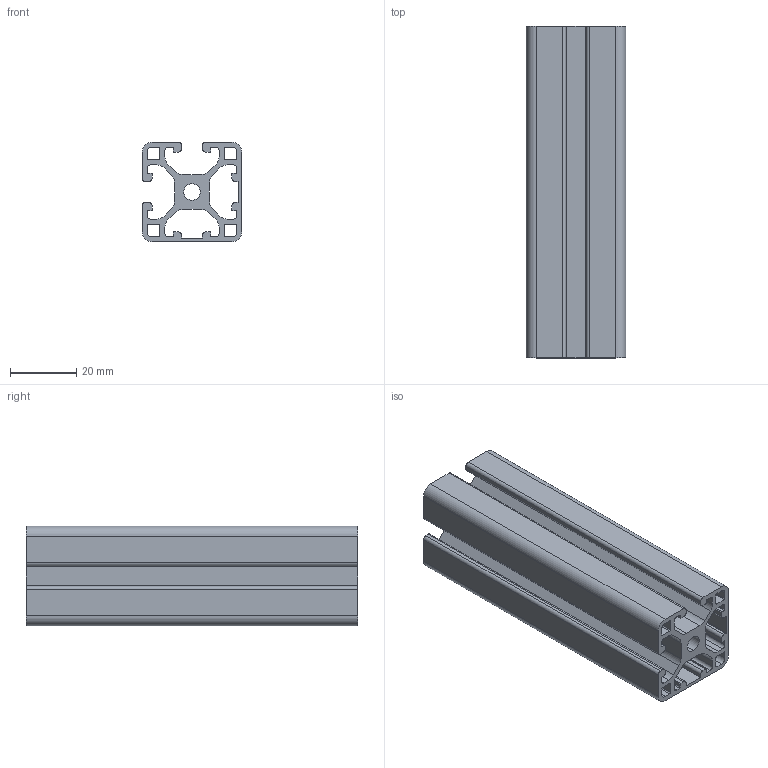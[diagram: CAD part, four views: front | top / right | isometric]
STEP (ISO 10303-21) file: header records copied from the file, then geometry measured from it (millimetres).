
FILE_DESCRIPTION (( 'STEP AP203' ), '1' );
FILE_NAME ('0106P3030-2N90L.STEP', '2024-03-01T08:06:37', ( 'Windows-Benutzer' ), ( '' ), 'SwSTEP 2.0', 'SolidWorks 2023', '' );
FILE_SCHEMA (( 'CONFIG_CONTROL_DESIGN' ));
Length unit declared in the file: millimetre
Products named in the file (1): 0106P3030-2N90L
Bounding box: 30 x 100 x 30 mm (x, y, z)
Volume: 35099.5 mm3; surface area: 36674.9 mm2
Topology: 1 solids, 1 shells, 156 faces, 462 edges, 308 vertices
Faces by surface type: cylinder 78, plane 78
Entity records: 5367 total; most frequent: DIRECTION 932, CARTESIAN_POINT 927, ORIENTED_EDGE 924, EDGE_CURVE 462, AXIS2_PLACEMENT_3D 313, VERTEX_POINT 308, LINE 306, VECTOR 306
